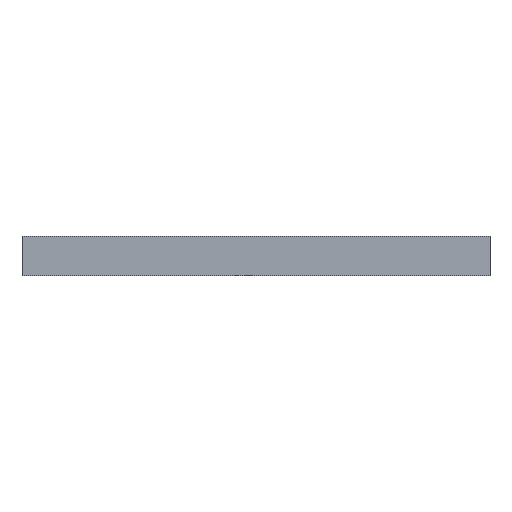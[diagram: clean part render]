
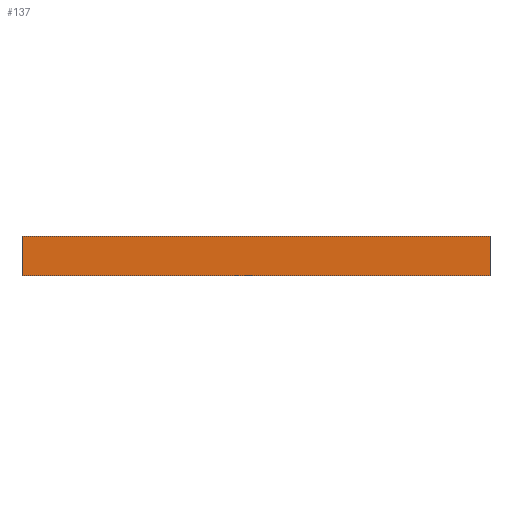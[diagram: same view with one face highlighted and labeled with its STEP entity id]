
A CAD part, front view. The second image highlights one B-rep face of the part: STEP entity #137.
In plain terms, the highlighted planar face has unit normal (0, -1, 0).
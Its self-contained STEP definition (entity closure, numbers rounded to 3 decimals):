
#21 = EDGE_CURVE('',#22,#24,#26,.T.);
#22 = VERTEX_POINT('',#23);
#23 = CARTESIAN_POINT('',(78.,39.,162.));
#24 = VERTEX_POINT('',#25);
#25 = CARTESIAN_POINT('',(78.,39.,164.));
#26 = SURFACE_CURVE('',#27,(#31,#43),.PCURVE_S1.);
#27 = LINE('',#28,#29);
#28 = CARTESIAN_POINT('',(78.,39.,162.));
#29 = VECTOR('',#30,1.);
#30 = DIRECTION('',(0.,0.,1.));
#31 = PCURVE('',#32,#37);
#32 = PLANE('',#33);
#33 = AXIS2_PLACEMENT_3D('',#34,#35,#36);
#34 = CARTESIAN_POINT('',(78.,39.,162.));
#35 = DIRECTION('',(1.,0.,0.));
#36 = DIRECTION('',(0.,0.,1.));
#37 = DEFINITIONAL_REPRESENTATION('',(#38),#42);
#38 = LINE('',#39,#40);
#39 = CARTESIAN_POINT('',(0.,0.));
#40 = VECTOR('',#41,1.);
#41 = DIRECTION('',(1.,0.));
#42 = ( GEOMETRIC_REPRESENTATION_CONTEXT(2) 
PARAMETRIC_REPRESENTATION_CONTEXT() REPRESENTATION_CONTEXT('2D SPACE',''
  ) );
#43 = PCURVE('',#44,#49);
#44 = PLANE('',#45);
#45 = AXIS2_PLACEMENT_3D('',#46,#47,#48);
#46 = CARTESIAN_POINT('',(78.,39.,162.));
#47 = DIRECTION('',(0.,1.,0.));
#48 = DIRECTION('',(0.,0.,1.));
#49 = DEFINITIONAL_REPRESENTATION('',(#50),#54);
#50 = LINE('',#51,#52);
#51 = CARTESIAN_POINT('',(0.,0.));
#52 = VECTOR('',#53,1.);
#53 = DIRECTION('',(1.,0.));
#54 = ( GEOMETRIC_REPRESENTATION_CONTEXT(2) 
PARAMETRIC_REPRESENTATION_CONTEXT() REPRESENTATION_CONTEXT('2D SPACE',''
  ) );
#72 = PLANE('',#73);
#73 = AXIS2_PLACEMENT_3D('',#74,#75,#76);
#74 = CARTESIAN_POINT('',(78.,39.,162.));
#75 = DIRECTION('',(0.,0.,1.));
#76 = DIRECTION('',(1.,0.,0.));
#126 = PLANE('',#127);
#127 = AXIS2_PLACEMENT_3D('',#128,#129,#130);
#128 = CARTESIAN_POINT('',(78.,39.,164.));
#129 = DIRECTION('',(0.,0.,1.));
#130 = DIRECTION('',(1.,0.,0.));
#137 = ADVANCED_FACE('',(#138),#44,.F.);
#138 = FACE_BOUND('',#139,.F.);
#139 = EDGE_LOOP('',(#140,#163,#164,#187));
#140 = ORIENTED_EDGE('',*,*,#141,.F.);
#141 = EDGE_CURVE('',#22,#142,#144,.T.);
#142 = VERTEX_POINT('',#143);
#143 = CARTESIAN_POINT('',(102.,39.,162.));
#144 = SURFACE_CURVE('',#145,(#149,#156),.PCURVE_S1.);
#145 = LINE('',#146,#147);
#146 = CARTESIAN_POINT('',(78.,39.,162.));
#147 = VECTOR('',#148,1.);
#148 = DIRECTION('',(1.,0.,0.));
#149 = PCURVE('',#44,#150);
#150 = DEFINITIONAL_REPRESENTATION('',(#151),#155);
#151 = LINE('',#152,#153);
#152 = CARTESIAN_POINT('',(0.,0.));
#153 = VECTOR('',#154,1.);
#154 = DIRECTION('',(0.,1.));
#155 = ( GEOMETRIC_REPRESENTATION_CONTEXT(2) 
PARAMETRIC_REPRESENTATION_CONTEXT() REPRESENTATION_CONTEXT('2D SPACE',''
  ) );
#156 = PCURVE('',#72,#157);
#157 = DEFINITIONAL_REPRESENTATION('',(#158),#162);
#158 = LINE('',#159,#160);
#159 = CARTESIAN_POINT('',(0.,0.));
#160 = VECTOR('',#161,1.);
#161 = DIRECTION('',(1.,0.));
#162 = ( GEOMETRIC_REPRESENTATION_CONTEXT(2) 
PARAMETRIC_REPRESENTATION_CONTEXT() REPRESENTATION_CONTEXT('2D SPACE',''
  ) );
#163 = ORIENTED_EDGE('',*,*,#21,.T.);
#164 = ORIENTED_EDGE('',*,*,#165,.T.);
#165 = EDGE_CURVE('',#24,#166,#168,.T.);
#166 = VERTEX_POINT('',#167);
#167 = CARTESIAN_POINT('',(102.,39.,164.));
#168 = SURFACE_CURVE('',#169,(#173,#180),.PCURVE_S1.);
#169 = LINE('',#170,#171);
#170 = CARTESIAN_POINT('',(78.,39.,164.));
#171 = VECTOR('',#172,1.);
#172 = DIRECTION('',(1.,0.,0.));
#173 = PCURVE('',#44,#174);
#174 = DEFINITIONAL_REPRESENTATION('',(#175),#179);
#175 = LINE('',#176,#177);
#176 = CARTESIAN_POINT('',(2.,0.));
#177 = VECTOR('',#178,1.);
#178 = DIRECTION('',(0.,1.));
#179 = ( GEOMETRIC_REPRESENTATION_CONTEXT(2) 
PARAMETRIC_REPRESENTATION_CONTEXT() REPRESENTATION_CONTEXT('2D SPACE',''
  ) );
#180 = PCURVE('',#126,#181);
#181 = DEFINITIONAL_REPRESENTATION('',(#182),#186);
#182 = LINE('',#183,#184);
#183 = CARTESIAN_POINT('',(0.,0.));
#184 = VECTOR('',#185,1.);
#185 = DIRECTION('',(1.,0.));
#186 = ( GEOMETRIC_REPRESENTATION_CONTEXT(2) 
PARAMETRIC_REPRESENTATION_CONTEXT() REPRESENTATION_CONTEXT('2D SPACE',''
  ) );
#187 = ORIENTED_EDGE('',*,*,#188,.F.);
#188 = EDGE_CURVE('',#142,#166,#189,.T.);
#189 = SURFACE_CURVE('',#190,(#194,#201),.PCURVE_S1.);
#190 = LINE('',#191,#192);
#191 = CARTESIAN_POINT('',(102.,39.,162.));
#192 = VECTOR('',#193,1.);
#193 = DIRECTION('',(0.,0.,1.));
#194 = PCURVE('',#44,#195);
#195 = DEFINITIONAL_REPRESENTATION('',(#196),#200);
#196 = LINE('',#197,#198);
#197 = CARTESIAN_POINT('',(0.,24.));
#198 = VECTOR('',#199,1.);
#199 = DIRECTION('',(1.,0.));
#200 = ( GEOMETRIC_REPRESENTATION_CONTEXT(2) 
PARAMETRIC_REPRESENTATION_CONTEXT() REPRESENTATION_CONTEXT('2D SPACE',''
  ) );
#201 = PCURVE('',#202,#207);
#202 = PLANE('',#203);
#203 = AXIS2_PLACEMENT_3D('',#204,#205,#206);
#204 = CARTESIAN_POINT('',(102.,39.,162.));
#205 = DIRECTION('',(1.,0.,0.));
#206 = DIRECTION('',(0.,0.,1.));
#207 = DEFINITIONAL_REPRESENTATION('',(#208),#212);
#208 = LINE('',#209,#210);
#209 = CARTESIAN_POINT('',(0.,0.));
#210 = VECTOR('',#211,1.);
#211 = DIRECTION('',(1.,0.));
#212 = ( GEOMETRIC_REPRESENTATION_CONTEXT(2) 
PARAMETRIC_REPRESENTATION_CONTEXT() REPRESENTATION_CONTEXT('2D SPACE',''
  ) );
